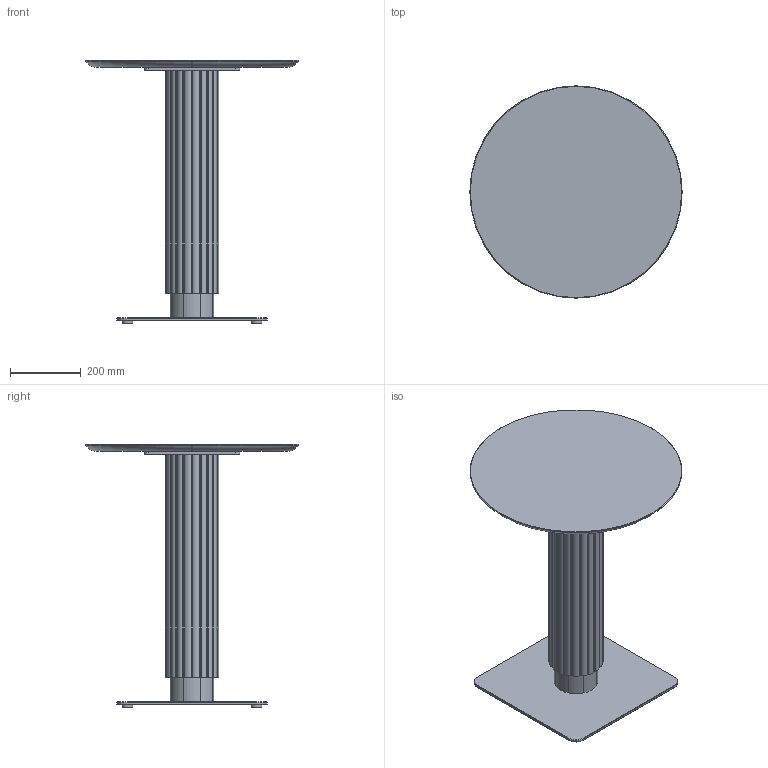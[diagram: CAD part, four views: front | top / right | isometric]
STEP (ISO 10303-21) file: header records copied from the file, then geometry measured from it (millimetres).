
FILE_DESCRIPTION( ('This file contains a STEP AP42 implementation' ,'as created by ZW3D STEP Interface translator.') ,'2;1' );
FILE_NAME( 'Godron - B_Carré - F1 - M3 - 600 x 600 x 750.stp' ,'24 912. 92723', (''), ('ZWCAD Software Co.'), 'Version 1.0', 'ZW3D to STEP translator', '' );
FILE_SCHEMA(('AUTOMOTIVE_DESIGN { 1 0 10303 214 1 1 1 1 }'));
Length unit declared in the file: millimetre
Products named in the file (15): 0; PIED BISTROT PARAMETRIQUE_; CROIX ACIER 370 V.02_; CRX-X370-02_; SOCLE ACIER L 425x425 V.02_; SCL-R425-02_; PLA-R30A-01_; PLA-R30A-01; COLONNE ACIER Ø48.5 V.02_; TUB-D048-02_; PLA-R48A-01_; Colonne GODRON H700_; WUERTH 0276063020 Euro-screw 6.3x2 Verzinkt_; PLATEAU BISTROT PARAMETRIQUE_; insert_m6_13_
Assembly tree (23 placements, depth 3):
  0
  PIED BISTROT PARAMETRIQUE_
    CROIX ACIER 370 V.02_
      CRX-X370-02_
    SOCLE ACIER L 425x425 V.02_
      SCL-R425-02_
      PLA-R30A-01_
      PLA-R30A-01  x3
    COLONNE ACIER Ø48.5 V.02_
      TUB-D048-02_
      PLA-R48A-01_  x2
    Colonne GODRON H700_
    WUERTH 0276063020 Euro-screw 6.3x2 Verzinkt_
    PLATEAU BISTROT PARAMETRIQUE_
      insert_m6_13_  x8
Bounding box: 600 x 600 x 744 mm (x, y, z)
Volume: 17868936.3 mm3; surface area: 2368764.2 mm2
Topology: 27 solids, 27 shells, 669 faces, 1662 edges, 1062 vertices
Faces by surface type: plane 298, cylinder 196, bspline 121, cone 49, torus 5
Full cylindrical faces by diameter (mm): 4.88 x1, 6 x8, 6.3 x1, 8 x45, 12 x2, 14 x2, 30 x4, 44.5 x3, 48.5 x1
Entity records: 16818 total; most frequent: CARTESIAN_POINT 4133, DIRECTION 2352, ORIENTED_EDGE 2338, EDGE_CURVE 1169, AXIS2_PLACEMENT_3D 837, VERTEX_POINT 756, VECTOR 678, LINE 678
